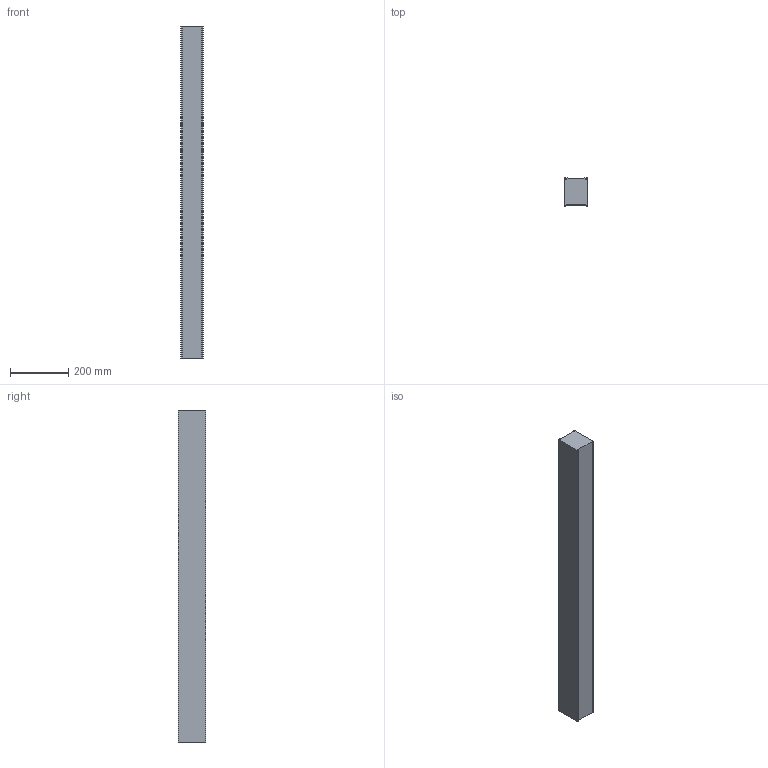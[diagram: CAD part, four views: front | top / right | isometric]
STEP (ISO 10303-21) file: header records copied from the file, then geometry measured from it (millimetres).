
FILE_DESCRIPTION (( 'STEP AP214' ), '1' );
FILE_NAME ('Swerve SM 8B Straight.STEP', '2019-05-29T02:54:07', ( 'admin' ), ( 'Hewlett-Packard Company' ), 'SwSTEP 2.0', 'SolidWorks 2017', '' );
FILE_SCHEMA (( 'AUTOMOTIVE_DESIGN' ));
Length unit declared in the file: millimetre
Products named in the file (1): Swerve SM 8B Straight
Bounding box: 76.2 x 95.1 x 1136 mm (x, y, z)
Volume: 7682231.8 mm3; surface area: 433356.9 mm2
Topology: 1 solids, 1 shells, 46 faces, 132 edges, 88 vertices
Faces by surface type: cylinder 24, plane 22
Entity records: 1558 total; most frequent: DIRECTION 274, CARTESIAN_POINT 267, ORIENTED_EDGE 264, EDGE_CURVE 132, AXIS2_PLACEMENT_3D 95, VERTEX_POINT 88, VECTOR 84, LINE 84
